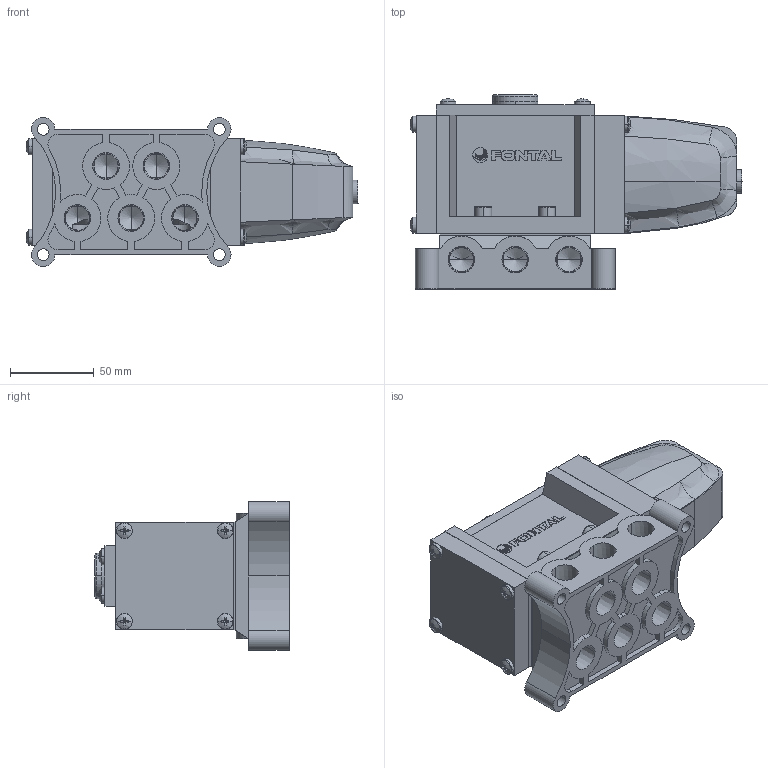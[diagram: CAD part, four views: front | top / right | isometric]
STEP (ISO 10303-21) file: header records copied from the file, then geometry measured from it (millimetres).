
FILE_DESCRIPTION (( 'STEP AP203' ), '1' );
FILE_NAME ('AS2410-03-##.STEP', '2016-03-09T04:00:12', ( 'Sam Lin' ), ( '' ), 'SwSTEP 2.0', 'SolidWorks 2013', '' );
FILE_SCHEMA (( 'CONFIG_CONTROL_DESIGN' ));
Length unit declared in the file: metre
Products named in the file (11): AS2410-4; ISO 4762 M6 x 16; AS2410-5; AS2410-1; AS2410-6; A10-MARK; AS2410-03-##; AS2310-3; ISO 7045 - M5 x 16; AS2410-2; AS2410-3
Assembly tree (24 placements, depth 2):
  AS2410-03-##
    AS2410-1
    A10-MARK
    AS2310-3
    ISO 7045 - M5 x 16  x12
    AS2410-2
    AS2410-3
    AS2410-4
    ISO 4762 M6 x 16  x4
    AS2410-5
    AS2410-6
Bounding box: 197.63 x 115.6 x 88.6 mm (x, y, z)
Volume: 853335 mm3; surface area: 148908.2 mm2
Topology: 30 solids, 30 shells, 903 faces, 2257 edges, 1413 vertices
Faces by surface type: plane 450, cylinder 211, cone 128, bspline 114
Entity records: 17290 total; most frequent: CARTESIAN_POINT 4973, ORIENTED_EDGE 2234, DIRECTION 2230, EDGE_CURVE 1117, AXIS2_PLACEMENT_3D 811, VERTEX_POINT 731, VECTOR 608, LINE 608
